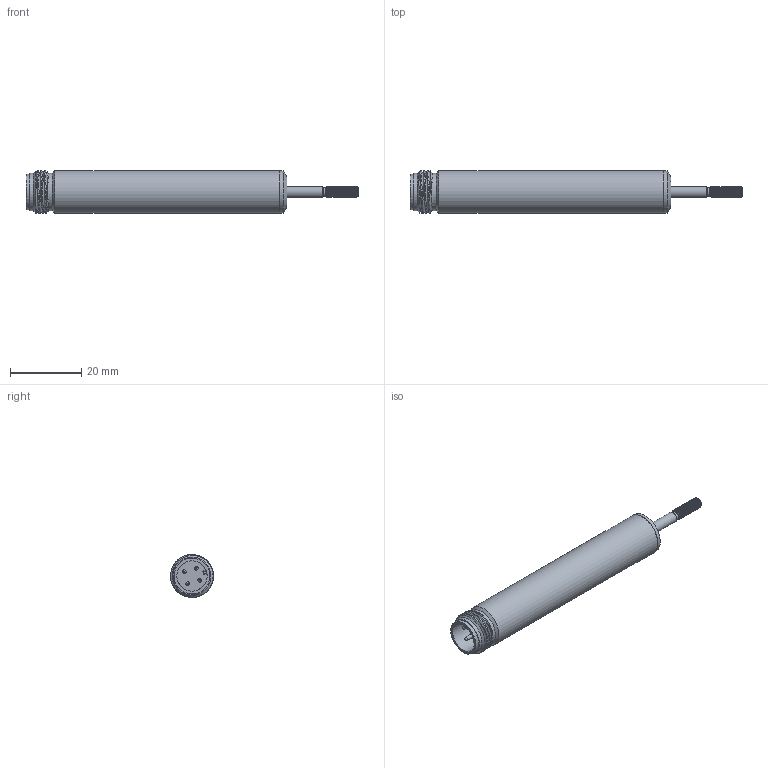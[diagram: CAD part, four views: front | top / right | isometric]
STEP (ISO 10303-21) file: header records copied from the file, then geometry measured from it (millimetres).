
FILE_DESCRIPTION( ( 'STEP AP214' ), '1' );
FILE_NAME( 'N:/Engineering/CAD_Solid/LVDT/SM/Kunden-3D-Modell/SM5-SG-SA.stp', '2011-12-12T13:23:59', ( ' ' ), ( ' ' ), 'XStep 1.0', ' ', ' ' );
FILE_SCHEMA( ( 'CONFIG_CONTROL_DESIGN) ( )' ) );
Length unit declared in the file: metre
Products named in the file (3): 1; 2; 3
Bounding box: 93.1 x 12 x 12 mm (x, y, z)
Surface area: 3817.3 mm2 (no closed solid volume)
Topology: 0 solids, 62 shells, 63 faces, 232 edges, 207 vertices
Faces by surface type: cylinder 21, plane 20, bspline 10, cone 9, sphere 2, torus 1
Full cylindrical faces by diameter (mm): 1 x4, 2.4 x1, 3 x1, 8.5 x1, 10 x1, 10.6 x2, 12 x2
Entity records: 6605 total; most frequent: CARTESIAN_POINT 4391, DIRECTION 378, ORIENTED_EDGE 195, EDGE_CURVE 195, VERTEX_POINT 195, AXIS2_PLACEMENT_3D 172, CIRCLE 117, FACE_BOUND 101
